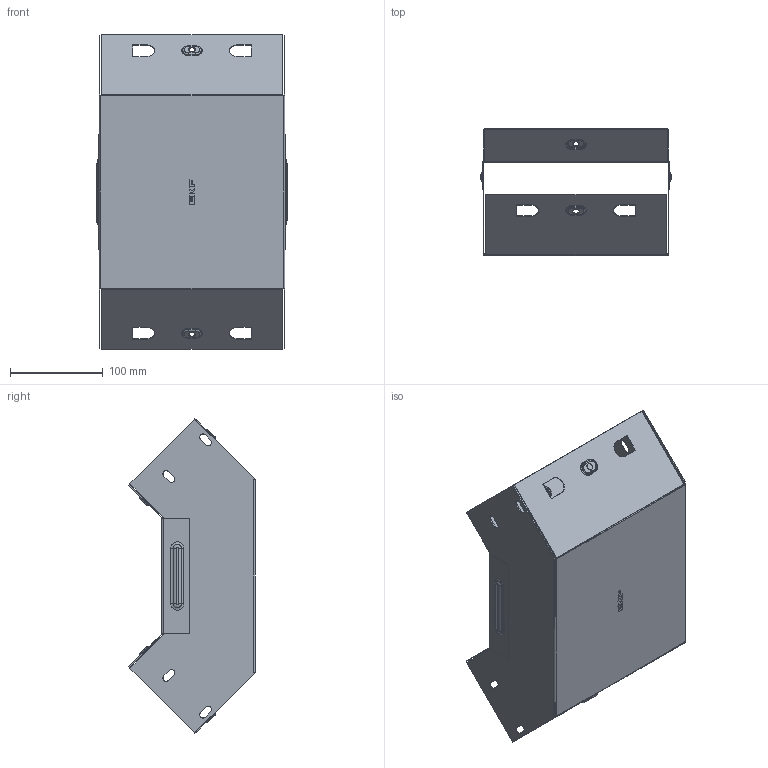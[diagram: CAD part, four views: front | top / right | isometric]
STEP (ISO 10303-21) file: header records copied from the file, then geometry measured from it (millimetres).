
FILE_DESCRIPTION (( 'STEP AP214' ), '1' );
FILE_NAME ('vi90100200_捘.STEP', '2019-06-10T09:22:32', ( '砐錪賧瘔蠈錪 Windows' ), ( '' ), 'SwSTEP 2.0', 'SolidWorks 2018', '' );
FILE_SCHEMA (( 'AUTOMOTIVE_DESIGN' ));
Length unit declared in the file: millimetre
Products named in the file (1): vi90100200_捘
Bounding box: 205.6 x 136.16 x 338.25 mm (x, y, z)
Volume: 150423.6 mm3; surface area: 378975.6 mm2
Topology: 2 solids, 2 shells, 452 faces, 1164 edges, 744 vertices
Faces by surface type: plane 242, cylinder 128, torus 64, bspline 18
Entity records: 14672 total; most frequent: CARTESIAN_POINT 3380, DIRECTION 2350, ORIENTED_EDGE 2328, EDGE_CURVE 1164, AXIS2_PLACEMENT_3D 787, LINE 776, VECTOR 776, VERTEX_POINT 744
